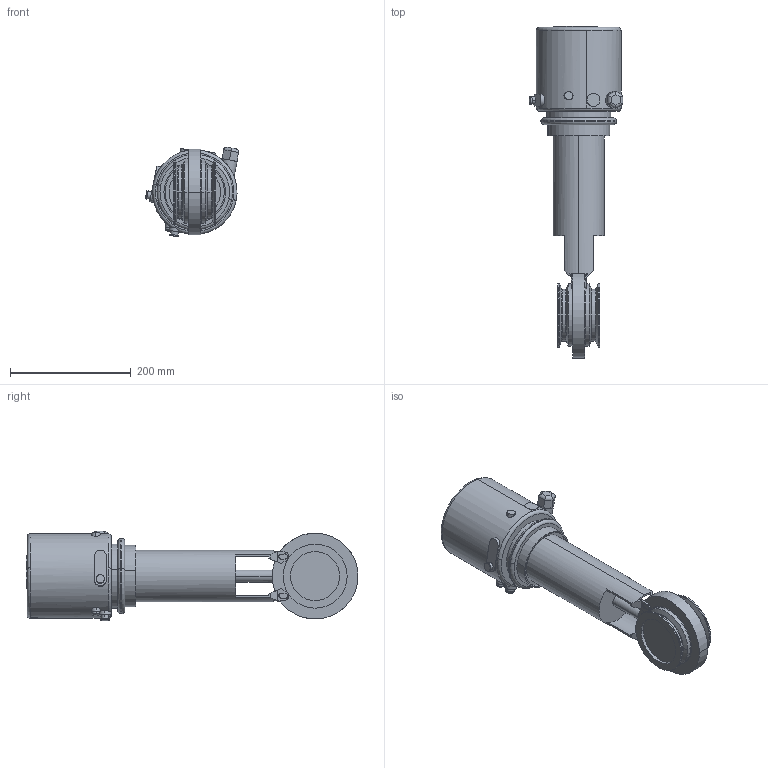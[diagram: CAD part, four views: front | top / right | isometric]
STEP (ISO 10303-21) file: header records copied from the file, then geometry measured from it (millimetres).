
FILE_DESCRIPTION(('Creo Elements/Direct Modeling STEP Export'),'2;1');
FILE_NAME('SV1-80-CU4-12CL.stp','2014-06-23T11:34:55',(''),(''),'Creo Elements/Direct Modeling STEP processor for AP214 (Solid Model)','Creo Elements/Direct Modeling 17.0D 15-Jul-2011 (C) Parametric Technology GmbH','');
FILE_SCHEMA(('AUTOMOTIVE_DESIGN { 1 0 10303 214 1 1 1 1 }'));
Length unit declared in the file: millimetre
Products named in the file (3): SV1-80-12CL; CU4-T-SPX_logo; SV1-80-FZ-12CL
Assembly tree (2 placements, depth 2):
  SV1-80-FZ-12CL
    CU4-T-SPX_logo
    SV1-80-12CL
Bounding box: 154.49 x 549.5 x 148.44 mm (x, y, z)
Volume: 4137907 mm3; surface area: 257834.2 mm2
Topology: 2 solids, 2 shells, 271 faces, 686 edges, 436 vertices
Faces by surface type: plane 114, cylinder 90, extrusion 33, torus 26, cone 8
Entity records: 11958 total; most frequent: CARTESIAN_POINT 5727, ORIENTED_EDGE 1372, DIRECTION 1146, EDGE_CURVE 686, VERTEX_POINT 436, AXIS2_PLACEMENT_3D 405, VECTOR 336, LINE 303
